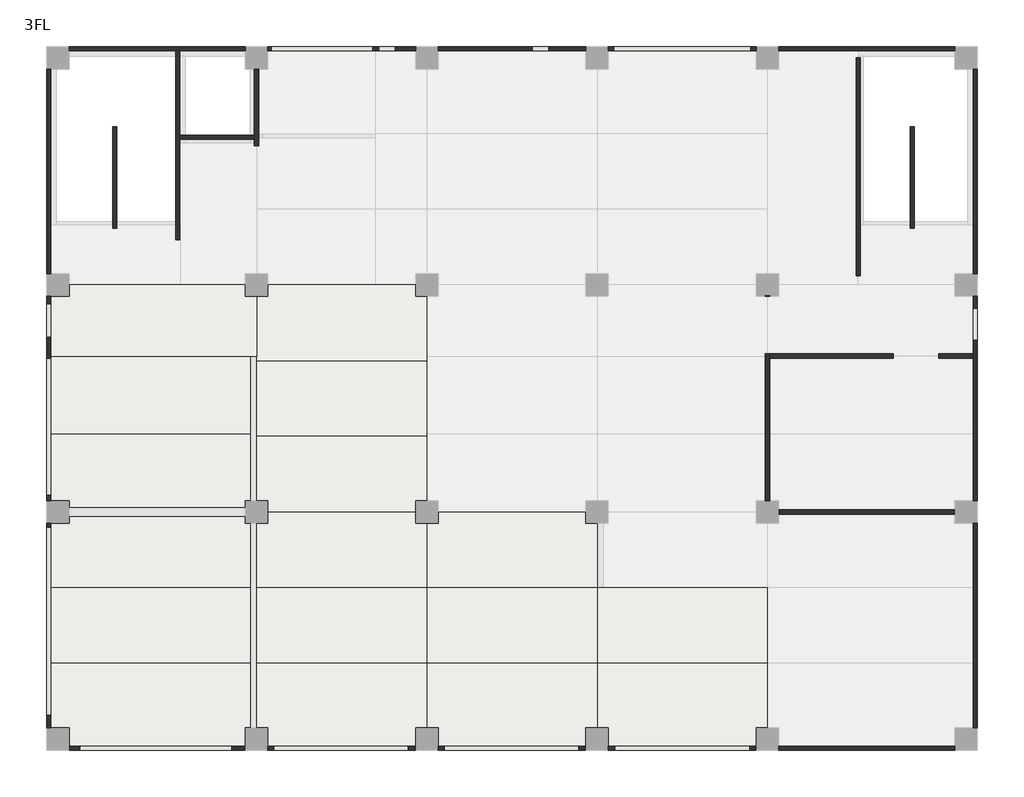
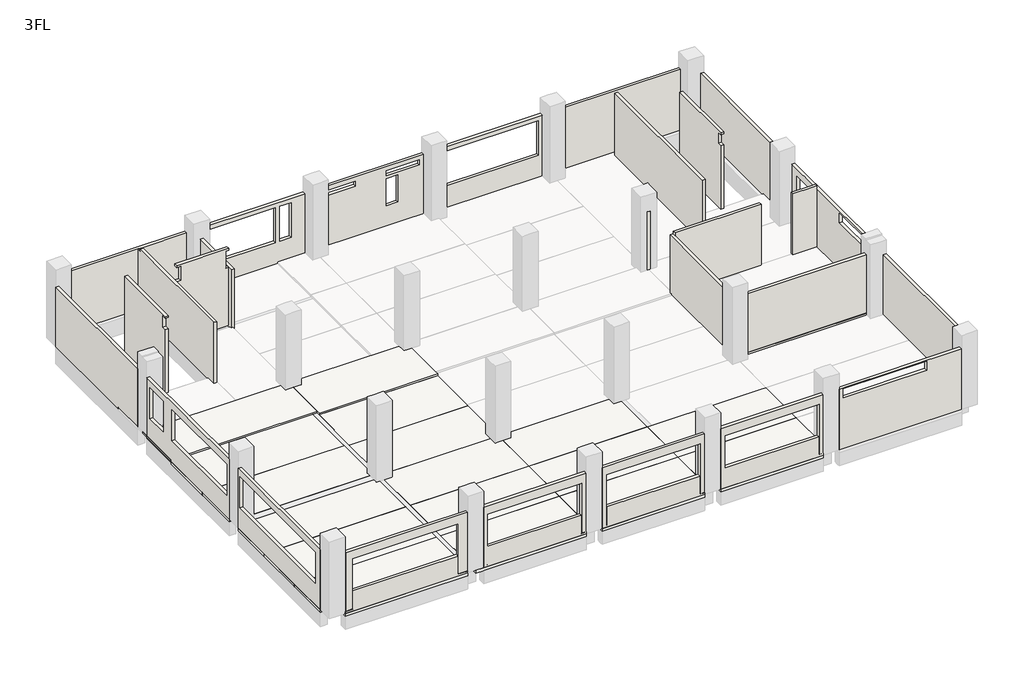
# One storey, part 1 of 4: 23 walls, 17 slabs.
"""IFC4 building model written with IfcOpenShell, lengths in millimetres."""

from ifc_helpers import new_model, si_unit, frame, origin, place, context, project, spatial, polyline, outline, extrude, faceted_brep, element, save

model = new_model("IFC4")

# Units and contexts
model_context = context("Model", 3, world=origin())
ifc_project = project(units=[si_unit("LENGTHUNIT", "METRE", prefix="MILLI")], contexts=[model_context])

# Site, building, storey
site = spatial("IfcSite", under=ifc_project)
building = spatial("IfcBuilding", under=site)
storey = spatial("IfcBuildingStorey", under=building, Name="3FL", Elevation=8200.0)

# Slabs
placement = place(None, origin())
element("IfcSlab", 1, ObjectType="S2", at=placement, inside=storey, context=model_context, shape_type="Brep", body=[
    faceted_brep([(400.0, -400.0, 7950.0), (400.0, -50.0, 7950.0), (400.0, 400.0, 7950.0), (-50.0, 400.0, 7950.0), (-400.0, 400.0, 7950.0), (-400.0, 2664.0, 7950.0), (6775.0, 2664.0, 7950.0), (6775.0, 2485.0, 7950.0), (6775.0, 400.0, 7950.0), (6600.0, 400.0, 7950.0), (6600.0, -50.0, 7950.0), (6600.0, -400.0, 7950.0), (400.0, 400.0, 8100.0), (400.0, -250.0, 8100.0), (400.0, -400.0, 8100.0), (6600.0, -400.0, 8100.0), (6600.0, -250.0, 8100.0), (6600.0, 400.0, 8100.0), (6775.0, 400.0, 8100.0), (6775.0, 2664.0, 8100.0), (-400.0, 2664.0, 8100.0), (-400.0, 400.0, 8100.0), (-250.0, 400.0, 8100.0)], [[[0, 1, 2, 3, 4, 5, 6, 7, 8, 9, 10, 11]], [[12, 13, 14, 15, 16, 17, 18, 19, 20, 21, 22]], [[14, 0, 11, 15]], [[20, 5, 4, 21]], [[5, 20, 19, 6]], [[12, 2, 1, 0, 14, 13]], [[2, 12, 22, 21, 4, 3]], [[9, 17, 16, 15, 11, 10]], [[17, 9, 8, 18]], [[8, 7, 6, 19, 18]]]),
])
element("IfcSlab", 2, ObjectType="S2", at=placement, inside=storey, context=model_context, shape_type="Brep", body=[
    faceted_brep([(-400.0, 2664.0, 7950.0), (-400.0, 5328.0, 7950.0), (6775.0, 5328.0, 7950.0), (6775.0, 5155.0, 7950.0), (6775.0, 2835.0, 7950.0), (6775.0, 2664.0, 7950.0), (-400.0, 5328.0, 8100.0), (-400.0, 2664.0, 8100.0), (6775.0, 2664.0, 8100.0), (6775.0, 5328.0, 8100.0)], [[[0, 1, 2, 3, 4, 5]], [[6, 7, 8, 9]], [[7, 0, 5, 8]], [[1, 0, 7, 6]], [[1, 6, 9, 2]], [[5, 4, 3, 2, 9, 8]]]),
])
element("IfcSlab", 3, ObjectType="S2", at=placement, inside=storey, context=model_context, shape_type="Brep", body=[
    faceted_brep([(-400.0, 7600.0, 7950.0), (-50.0, 7600.0, 7950.0), (400.0, 7600.0, 7950.0), (400.0, 7825.0, 7950.0), (6600.0, 7825.0, 7950.0), (6600.0, 7600.0, 7950.0), (6775.0, 7600.0, 7950.0), (6775.0, 5505.0, 7950.0), (6775.0, 5328.0, 7950.0), (-400.0, 5328.0, 7950.0), (400.0, 7600.0, 8100.0), (-250.0, 7600.0, 8100.0), (-400.0, 7600.0, 8100.0), (-400.0, 5328.0, 8100.0), (6775.0, 5328.0, 8100.0), (6775.0, 7600.0, 8100.0), (6600.0, 7600.0, 8100.0), (6600.0, 7825.0, 8100.0), (400.0, 7825.0, 8100.0)], [[[0, 1, 2, 3, 4, 5, 6, 7, 8, 9]], [[10, 11, 12, 13, 14, 15, 16, 17, 18]], [[13, 9, 8, 14]], [[9, 13, 12, 0]], [[2, 10, 18, 3]], [[10, 2, 1, 0, 12, 11]], [[5, 16, 15, 6]], [[16, 5, 4, 17]], [[4, 3, 18, 17]], [[8, 7, 6, 15, 14]]]),
])
element("IfcSlab", 4, ObjectType="S2", at=placement, inside=storey, context=model_context, shape_type="Brep", body=[
    faceted_brep([(13000.0, 2664.0, 7950.0), (19000.0, 2664.0, 7950.0), (19000.0, 400.0, 7950.0), (18600.0, 400.0, 7950.0), (18600.0, -50.0, 7950.0), (18600.0, -400.0, 7950.0), (13400.0, -400.0, 7950.0), (13400.0, -50.0, 7950.0), (13400.0, 400.0, 7950.0), (13000.0, 400.0, 7950.0), (19000.0, 2664.0, 8100.0), (13000.0, 2664.0, 8100.0), (13000.0, 400.0, 8100.0), (13400.0, 400.0, 8100.0), (13400.0, -250.0, 8100.0), (13400.0, -400.0, 8100.0), (18600.0, -400.0, 8100.0), (18600.0, -250.0, 8100.0), (18600.0, 400.0, 8100.0), (19000.0, 400.0, 8100.0)], [[[0, 1, 2, 3, 4, 5, 6, 7, 8, 9]], [[10, 11, 12, 13, 14, 15, 16, 17, 18, 19]], [[15, 6, 5, 16]], [[11, 0, 9, 12]], [[1, 0, 11, 10]], [[1, 10, 19, 2]], [[13, 8, 7, 6, 15, 14]], [[8, 13, 12, 9]], [[3, 18, 17, 16, 5, 4]], [[18, 3, 2, 19]]]),
])
element("IfcSlab", 5, ObjectType="S2", at=placement, inside=storey, context=model_context, shape_type="Brep", body=[
    faceted_brep([(19000.0, 5328.0, 7950.0), (19000.0, 2664.0, 7950.0), (13000.0, 2664.0, 7950.0), (13000.0, 2667.0, 7950.0), (13000.0, 5328.0, 7950.0), (19000.0, 5328.0, 8100.0), (13000.0, 5328.0, 8100.0), (13000.0, 2667.0, 8100.0), (13000.0, 2664.0, 8100.0), (19000.0, 2664.0, 8100.0)], [[[0, 1, 2, 3, 4]], [[5, 6, 7, 8, 9]], [[1, 0, 5, 9]], [[2, 1, 9, 8]], [[4, 3, 2, 8, 7, 6]], [[0, 4, 6, 5]]]),
])
element("IfcSlab", 6, ObjectType="S2", at=placement, inside=storey, context=model_context, shape_type="Brep", body=[
    faceted_brep([(19000.0, 5328.0, 7950.0), (13000.0, 5328.0, 7950.0), (13000.0, 5333.0, 7950.0), (13000.0, 7600.0, 7950.0), (13225.0, 7600.0, 7950.0), (13400.0, 7600.0, 7950.0), (13400.0, 8000.0, 7950.0), (18600.0, 8000.0, 7950.0), (18600.0, 7825.0, 7950.0), (18600.0, 7600.0, 7950.0), (18775.0, 7600.0, 7950.0), (19000.0, 7600.0, 7950.0), (13000.0, 5328.0, 8100.0), (19000.0, 5328.0, 8100.0), (19000.0, 7600.0, 8100.0), (18600.0, 7600.0, 8100.0), (18600.0, 8000.0, 8100.0), (13400.0, 8000.0, 8100.0), (13400.0, 7600.0, 8100.0), (13000.0, 7600.0, 8100.0), (13000.0, 5333.0, 8100.0)], [[[0, 1, 2, 3, 4, 5, 6, 7, 8, 9, 10, 11]], [[12, 13, 14, 15, 16, 17, 18, 19, 20]], [[13, 0, 11, 14]], [[1, 0, 13, 12]], [[1, 12, 20, 19, 3, 2]], [[6, 17, 16, 7]], [[5, 18, 17, 6]], [[18, 5, 4, 3, 19]], [[9, 15, 14, 11, 10]], [[15, 9, 8, 7, 16]]]),
])
element("IfcSlab", 7, ObjectType="S2", at=placement, inside=storey, context=model_context, shape_type="Brep", body=[
    faceted_brep([(19000.0, 2664.0, 7950.0), (25000.0, 2664.0, 7950.0), (25000.0, 400.0, 7950.0), (24600.0, 400.0, 7950.0), (24600.0, -50.0, 7950.0), (24600.0, -400.0, 7950.0), (19400.0, -400.0, 7950.0), (19400.0, -50.0, 7950.0), (19400.0, 400.0, 7950.0), (19000.0, 400.0, 7950.0), (25000.0, 2664.0, 8100.0), (19000.0, 2664.0, 8100.0), (19000.0, 400.0, 8100.0), (19400.0, 400.0, 8100.0), (19400.0, -250.0, 8100.0), (19400.0, -400.0, 8100.0), (24600.0, -400.0, 8100.0), (24600.0, -250.0, 8100.0), (24600.0, 400.0, 8100.0), (25000.0, 400.0, 8100.0)], [[[0, 1, 2, 3, 4, 5, 6, 7, 8, 9]], [[10, 11, 12, 13, 14, 15, 16, 17, 18, 19]], [[15, 6, 5, 16]], [[11, 0, 9, 12]], [[1, 0, 11, 10]], [[1, 10, 19, 2]], [[13, 8, 7, 6, 15, 14]], [[8, 13, 12, 9]], [[3, 18, 17, 16, 5, 4]], [[18, 3, 2, 19]]]),
])
element("IfcSlab", 8, ObjectType="S2", at=placement, inside=storey, context=model_context, shape_type="Brep", body=[
    faceted_brep([(25000.0, 5328.0, 7950.0), (25000.0, 2664.0, 7950.0), (19000.0, 2664.0, 7950.0), (19000.0, 5328.0, 7950.0), (19225.0, 5328.0, 7950.0), (25000.0, 5328.0, 8100.0), (19225.0, 5328.0, 8100.0), (19000.0, 5328.0, 8100.0), (19000.0, 2664.0, 8100.0), (25000.0, 2664.0, 8100.0)], [[[0, 1, 2, 3, 4]], [[5, 6, 7, 8, 9]], [[1, 0, 5, 9]], [[2, 1, 9, 8]], [[3, 2, 8, 7]], [[0, 4, 3, 7, 6, 5]]]),
])
element("IfcSlab", 9, ObjectType="S2", at=placement, inside=storey, context=model_context, shape_type="Brep", body=[
    faceted_brep([(7000.0, 13496.0, 8040.0), (6775.0, 13496.0, 8040.0), (-50.0, 13496.0, 8040.0), (-400.0, 13496.0, 8040.0), (-400.0, 15600.0, 8040.0), (-50.0, 15600.0, 8040.0), (400.0, 15600.0, 8040.0), (400.0, 16000.0, 8040.0), (4319.0, 16000.0, 8040.0), (6600.0, 16000.0, 8040.0), (6600.0, 15825.0, 8040.0), (6600.0, 15600.0, 8040.0), (6775.0, 15600.0, 8040.0), (7000.0, 15600.0, 8040.0), (7000.0, 13675.0, 8040.0), (-400.0, 13496.0, 8190.0), (7000.0, 13496.0, 8190.0), (7000.0, 15600.0, 8190.0), (6600.0, 15600.0, 8190.0), (6600.0, 16000.0, 8190.0), (4319.0, 16000.0, 8190.0), (-400.0, 16000.0, 8190.0), (-400.0, 15600.0, 8190.0), (7000.0, 13496.0, 8100.0), (-400.0, 13496.0, 8100.0), (-400.0, 16000.0, 8100.0), (-400.0, 15600.0, 8100.0), (400.0, 16000.0, 8100.0), (400.0, 15600.0, 8100.0), (-250.0, 15600.0, 8100.0), (6600.0, 15600.0, 8100.0)], [[[0, 1, 2, 3, 4, 5, 6, 7, 8, 9, 10, 11, 12, 13, 14]], [[15, 16, 17, 18, 19, 20, 21, 22]], [[16, 23, 0, 14, 13, 17]], [[3, 2, 1, 0, 23, 16, 15, 24]], [[15, 22, 21, 25, 26, 4, 3, 24]], [[7, 27, 25, 21, 20, 19, 9, 8]], [[6, 28, 27, 7]], [[26, 29, 28, 6, 5, 4]], [[28, 29, 26, 25, 27]], [[18, 17, 13, 12, 11, 30]], [[18, 30, 11, 10, 9, 19]]]),
])
element("IfcSlab", 10, ObjectType="S2", at=placement, inside=storey, context=model_context, shape_type="Brep", body=[
    faceted_brep([(7400.0, 15600.0, 8040.0), (7400.0, 16000.0, 8040.0), (11200.0, 16000.0, 8040.0), (12600.0, 16000.0, 8040.0), (12600.0, 15825.0, 8040.0), (12600.0, 15600.0, 8040.0), (12775.0, 15600.0, 8040.0), (13000.0, 15600.0, 8040.0), (13000.0, 13675.0, 8040.0), (7000.0, 13675.0, 8040.0), (7000.0, 15600.0, 8040.0), (7225.0, 15600.0, 8040.0), (7000.0, 13328.0, 8190.0), (13000.0, 13328.0, 8190.0), (13000.0, 13496.0, 8190.0), (13000.0, 15600.0, 8190.0), (12600.0, 15600.0, 8190.0), (12600.0, 16000.0, 8190.0), (11200.0, 16000.0, 8190.0), (7400.0, 16000.0, 8190.0), (7400.0, 15600.0, 8190.0), (7000.0, 15600.0, 8190.0), (7000.0, 13496.0, 8190.0), (13000.0, 13328.0, 8100.0), (13000.0, 13496.0, 8100.0), (13000.0, 13675.0, 8100.0), (7000.0, 13328.0, 8100.0), (7225.0, 13328.0, 8100.0), (12775.0, 13328.0, 8100.0), (7000.0, 13675.0, 8100.0), (7400.0, 16000.0, 8100.0), (7400.0, 15600.0, 8100.0), (12600.0, 15600.0, 8100.0), (12775.0, 13675.0, 8100.0), (7225.0, 13675.0, 8100.0)], [[[0, 1, 2, 3, 4, 5, 6, 7, 8, 9, 10, 11]], [[12, 13, 14, 15, 16, 17, 18, 19, 20, 21, 22]], [[15, 14, 13, 23, 24, 25, 8, 7]], [[13, 12, 26, 27, 28, 23]], [[12, 22, 21, 10, 9, 29, 26]], [[1, 30, 19, 18, 17, 3, 2]], [[1, 0, 31, 20, 19, 30]], [[0, 11, 10, 21, 20, 31]], [[7, 6, 5, 32, 16, 15]], [[5, 4, 3, 17, 16, 32]], [[25, 33, 34, 29, 9, 8]], [[29, 34, 33, 25, 24, 23, 28, 27, 26]]]),
])
element("IfcSlab", 11, ObjectType="S2", at=placement, inside=storey, context=model_context, shape_type="Brep", body=[
    faceted_brep([(7000.0, -400.0, 7950.0), (7000.0, 0.0, 7950.0), (7000.0, 400.0, 7950.0), (7000.0, 2667.0, 7950.0), (13000.0, 2667.0, 7950.0), (13000.0, 2664.0, 7950.0), (13000.0, 400.0, 7950.0), (12600.0, 400.0, 7950.0), (12600.0, -50.0, 7950.0), (12600.0, -400.0, 7950.0), (7400.0, -400.0, 7950.0), (7000.0, 2667.0, 8100.0), (7000.0, 400.0, 8100.0), (7000.0, 0.0, 8100.0), (7000.0, -400.0, 8100.0), (7400.0, -400.0, 8100.0), (12600.0, -400.0, 8100.0), (12600.0, 400.0, 8100.0), (13000.0, 400.0, 8100.0), (13000.0, 2664.0, 8100.0), (13000.0, 2667.0, 8100.0)], [[[0, 1, 2, 3, 4, 5, 6, 7, 8, 9, 10]], [[11, 12, 13, 14, 15, 16, 17, 18, 19, 20]], [[14, 0, 10, 9, 16, 15]], [[3, 2, 1, 0, 14, 13, 12, 11]], [[4, 3, 11, 20]], [[4, 20, 19, 18, 6, 5]], [[7, 17, 16, 9, 8]], [[17, 7, 6, 18]]]),
])
element("IfcSlab", 12, ObjectType="S2", at=placement, inside=storey, context=model_context, shape_type="Brep", body=[
    faceted_brep([(13000.0, 5333.0, 7950.0), (13000.0, 5328.0, 7950.0), (13000.0, 2667.0, 7950.0), (7000.0, 2667.0, 7950.0), (7000.0, 5333.0, 7950.0), (13000.0, 5333.0, 8100.0), (7000.0, 5333.0, 8100.0), (7000.0, 2667.0, 8100.0), (13000.0, 2667.0, 8100.0), (13000.0, 5328.0, 8100.0)], [[[0, 1, 2, 3, 4]], [[5, 6, 7, 8, 9]], [[2, 1, 0, 5, 9, 8]], [[3, 2, 8, 7]], [[4, 3, 7, 6]], [[0, 4, 6, 5]]]),
])
element("IfcSlab", 13, ObjectType="S2", at=placement, inside=storey, context=model_context, shape_type="Brep", body=[
    faceted_brep([(13000.0, 5333.0, 7950.0), (7000.0, 5333.0, 7950.0), (7000.0, 7600.0, 7950.0), (7000.0, 8000.0, 7950.0), (12600.0, 8000.0, 7950.0), (12600.0, 7825.0, 7950.0), (12600.0, 7600.0, 7950.0), (12775.0, 7600.0, 7950.0), (13000.0, 7600.0, 7950.0), (7000.0, 5333.0, 8100.0), (13000.0, 5333.0, 8100.0), (13000.0, 7600.0, 8100.0), (12600.0, 7600.0, 8100.0), (12600.0, 8000.0, 8100.0), (7000.0, 8000.0, 8100.0), (7000.0, 7600.0, 8100.0)], [[[0, 1, 2, 3, 4, 5, 6, 7, 8]], [[9, 10, 11, 12, 13, 14, 15]], [[10, 0, 8, 11]], [[1, 0, 10, 9]], [[3, 2, 1, 9, 15, 14]], [[3, 14, 13, 4]], [[6, 12, 11, 8, 7]], [[12, 6, 5, 4, 13]]]),
])
element("IfcSlab", 14, ObjectType="S2", at=placement, inside=storey, context=model_context, shape_type="Brep", body=[
    faceted_brep([(400.0, 8400.0, 7950.0), (-50.0, 8400.0, 7950.0), (-400.0, 8400.0, 7950.0), (-400.0, 10748.0, 7950.0), (6775.0, 10748.0, 7950.0), (6775.0, 10575.0, 7950.0), (6775.0, 8400.0, 7950.0), (6600.0, 8400.0, 7950.0), (6600.0, 8175.0, 7950.0), (400.0, 8175.0, 7950.0), (-400.0, 8400.0, 8100.0), (-250.0, 8400.0, 8100.0), (400.0, 8400.0, 8100.0), (400.0, 8175.0, 8100.0), (6600.0, 8175.0, 8100.0), (6600.0, 8400.0, 8100.0), (6775.0, 8400.0, 8100.0), (6775.0, 10748.0, 8100.0), (-400.0, 10748.0, 8100.0)], [[[0, 1, 2, 3, 4, 5, 6, 7, 8, 9]], [[10, 11, 12, 13, 14, 15, 16, 17, 18]], [[18, 3, 2, 10]], [[3, 18, 17, 4]], [[12, 0, 9, 13]], [[0, 12, 11, 10, 2, 1]], [[7, 15, 14, 8]], [[15, 7, 6, 16]], [[9, 8, 14, 13]], [[6, 5, 4, 17, 16]]]),
])
element("IfcSlab", 15, ObjectType="S2", at=placement, inside=storey, context=model_context, shape_type="Brep", body=[
    faceted_brep([(-400.0, 10748.0, 7950.0), (-400.0, 13496.0, 7950.0), (-50.0, 13496.0, 7950.0), (6775.0, 13496.0, 7950.0), (6775.0, 13325.0, 7950.0), (6775.0, 10925.0, 7950.0), (6775.0, 10748.0, 7950.0), (-400.0, 13496.0, 8100.0), (-400.0, 10748.0, 8100.0), (6775.0, 10748.0, 8100.0), (6775.0, 13496.0, 8100.0), (-400.0, 13496.0, 8040.0), (6775.0, 13496.0, 8040.0)], [[[0, 1, 2, 3, 4, 5, 6]], [[7, 8, 9, 10]], [[8, 0, 6, 9]], [[1, 0, 8, 7, 11]], [[1, 11, 7, 10, 12, 3, 2]], [[6, 5, 4, 3, 12, 10, 9]]]),
])
element("IfcSlab", 16, ObjectType="S2", at=placement, inside=storey, context=model_context, shape_type="Brep", body=[
    faceted_brep([(7000.0, 8000.0, 7950.0), (7000.0, 8175.0, 7950.0), (7000.0, 8400.0, 7950.0), (7000.0, 10664.0, 7950.0), (13000.0, 10664.0, 7950.0), (13000.0, 8400.0, 7950.0), (12600.0, 8400.0, 7950.0), (12600.0, 8175.0, 7950.0), (12600.0, 8000.0, 7950.0), (7225.0, 8000.0, 7950.0), (7000.0, 10664.0, 8100.0), (7000.0, 8400.0, 8100.0), (7000.0, 8175.0, 8100.0), (7000.0, 8000.0, 8100.0), (12600.0, 8000.0, 8100.0), (12600.0, 8400.0, 8100.0), (13000.0, 8400.0, 8100.0), (13000.0, 10664.0, 8100.0)], [[[0, 1, 2, 3, 4, 5, 6, 7, 8, 9]], [[10, 11, 12, 13, 14, 15, 16, 17]], [[13, 0, 9, 8, 14]], [[3, 2, 1, 0, 13, 12, 11, 10]], [[4, 3, 10, 17]], [[4, 17, 16, 5]], [[6, 15, 14, 8, 7]], [[15, 6, 5, 16]]]),
])
element("IfcSlab", 17, ObjectType="S2", at=placement, inside=storey, context=model_context, shape_type="Brep", body=[
    faceted_brep([(13000.0, 13328.0, 7950.0), (13000.0, 10748.0, 7950.0), (13000.0, 10664.0, 7950.0), (7000.0, 10664.0, 7950.0), (7000.0, 13328.0, 7950.0), (7225.0, 13328.0, 7950.0), (12775.0, 13328.0, 7950.0), (13000.0, 13328.0, 8100.0), (12775.0, 13328.0, 8100.0), (7225.0, 13328.0, 8100.0), (7000.0, 13328.0, 8100.0), (7000.0, 10664.0, 8100.0), (13000.0, 10664.0, 8100.0), (13000.0, 10748.0, 8100.0), (13000.0, 13328.0, 8040.0), (7000.0, 13328.0, 8040.0)], [[[0, 1, 2, 3, 4, 5, 6]], [[7, 8, 9, 10, 11, 12, 13]], [[2, 1, 0, 14, 7, 13, 12]], [[3, 2, 12, 11]], [[4, 3, 11, 10, 15]], [[0, 6, 5, 4, 15, 10, 9, 8, 7, 14]]]),
])

# Walls
element("IfcWall", 18, ObjectType="EW15", at=placement, inside=storey, context=model_context, shape_type="Brep", body=[
    faceted_brep([(400.0, 24400.0, 8100.0), (400.0, 24400.0, 11350.0), (6600.0, 24400.0, 11350.0), (6600.0, 24400.0, 8100.0), (400.0, 24250.0, 11350.0), (400.0, 24250.0, 8100.0), (4144.0, 24250.0, 8100.0), (4294.0, 24250.0, 8100.0), (6600.0, 24250.0, 8100.0), (6600.0, 24250.0, 11350.0), (4294.0, 24250.0, 11350.0), (4144.0, 24250.0, 11350.0)], [[[0, 1, 2, 3]], [[4, 5, 6, 7, 8, 9, 10, 11]], [[5, 0, 3, 8, 7, 6]], [[1, 4, 11, 10, 9, 2]], [[1, 0, 5, 4]], [[3, 2, 9, 8]]]),
])
element("IfcWall", 19, ObjectType="EW15", at=placement, inside=storey, context=model_context, shape_type="Brep", body=[
    faceted_brep([(31600.0, 24400.0, 11350.0), (31600.0, 24400.0, 8100.0), (28199.0, 24400.0, 8100.0), (25400.0, 24400.0, 8100.0), (25400.0, 24400.0, 11350.0), (31600.0, 24250.0, 8100.0), (31600.0, 24250.0, 11350.0), (25400.0, 24250.0, 11350.0), (25400.0, 24250.0, 8100.0)], [[[0, 1, 2, 3, 4]], [[5, 6, 7, 8]], [[1, 5, 8, 3, 2]], [[6, 0, 4, 7]], [[6, 5, 1, 0]], [[4, 3, 8, 7]]]),
])
element("IfcWall", 20, ObjectType="EW15", at=placement, inside=storey, context=model_context, shape_type="SweptSolid", body=[
    extrude(outline(polyline([(18100.0, 8100.0), (18100.0, 8190.0), (16400.0, 8190.0), (16400.0, 11300.0), (23600.0, 11300.0), (23600.0, 8100.0), (18100.0, 8100.0)])), frame((-400.0, 0.0, 0.0), z_axis=(1.0, 0.0, 0.0), x_axis=(0.0, 1.0, 0.0)), (0.0, 0.0, 1.0), 150.0),
])
element("IfcWall", 21, ObjectType="EW15", at=placement, inside=storey, context=model_context, shape_type="Brep", body=[
    faceted_brep([(32250.0, 7600.0, 8100.0), (32250.0, 400.0, 8100.0), (32250.0, 400.0, 11300.0), (32250.0, 7600.0, 11300.0), (32400.0, 7600.0, 8100.0), (32400.0, 7600.0, 11300.0), (32400.0, 400.0, 11300.0), (32400.0, 400.0, 8100.0), (32400.0, 2664.0, 8100.0), (32400.0, 5328.0, 8100.0)], [[[0, 1, 2, 3]], [[4, 5, 6, 7, 8, 9]], [[1, 0, 4, 9, 8, 7]], [[2, 1, 7, 6]], [[3, 2, 6, 5]], [[0, 3, 5, 4]]]),
])
element("IfcWall", 22, ObjectType="EW15", at=placement, inside=storey, context=model_context, shape_type="Brep", body=[
    faceted_brep([(32250.0, 8400.0, 11300.0), (32250.0, 13425.0, 11300.0), (32250.0, 13575.0, 11300.0), (32250.0, 15600.0, 11300.0), (32250.0, 15600.0, 8190.0), (32250.0, 13575.0, 8190.0), (32250.0, 13425.0, 8190.0), (32250.0, 8400.0, 8190.0), (32250.0, 15177.5, 10895.0), (32250.0, 14057.5, 10895.0), (32250.0, 14057.5, 9175.0), (32250.0, 15177.5, 9175.0), (32250.0, 11440.0, 11200.0), (32250.0, 8920.0, 11200.0), (32250.0, 8920.0, 10675.0), (32250.0, 11440.0, 10675.0), (32400.0, 15600.0, 11300.0), (32400.0, 8400.0, 11300.0), (32400.0, 8400.0, 8190.0), (32400.0, 10748.0, 8190.0), (32400.0, 13496.0, 8190.0), (32400.0, 15600.0, 8190.0), (32400.0, 14057.5, 10895.0), (32400.0, 15177.5, 10895.0), (32400.0, 15177.5, 9175.0), (32400.0, 14057.5, 9175.0), (32400.0, 8920.0, 11200.0), (32400.0, 11440.0, 11200.0), (32400.0, 11440.0, 10675.0), (32400.0, 8920.0, 10675.0)], [[[0, 1, 2, 3, 4, 5, 6, 7], [8, 9, 10, 11], [12, 13, 14, 15]], [[16, 17, 18, 19, 20, 21], [22, 23, 24, 25], [26, 27, 28, 29]], [[17, 0, 7, 18]], [[3, 2, 1, 0, 17, 16]], [[3, 16, 21, 4]], [[4, 21, 20, 19, 18, 7, 6, 5]], [[8, 23, 22, 9]], [[10, 25, 24, 11]], [[23, 8, 11, 24]], [[9, 22, 25, 10]], [[12, 27, 26, 13]], [[14, 29, 28, 15]], [[27, 12, 15, 28]], [[13, 26, 29, 14]]]),
])
element("IfcWall", 23, ObjectType="EW15", at=placement, inside=storey, context=model_context, shape_type="SweptSolid", body=[
    extrude(outline(polyline([(16400.0, 11300.0), (23600.0, 11300.0), (23600.0, 8100.0), (18100.0, 8100.0), (18100.0, 8190.0), (16400.0, 8190.0), (16400.0, 11300.0)])), frame((32250.0, 0.0, 0.0), z_axis=(1.0, 0.0, 0.0), x_axis=(0.0, 1.0, 0.0)), (0.0, 0.0, 1.0), 150.0),
])
element("IfcWall", 24, ObjectType="W15", at=placement, inside=storey, context=model_context, shape_type="SweptSolid", body=[
    extrude(outline(polyline([(8200.0, 400.0), (8100.0, 400.0), (8100.0, 6600.0), (8200.0, 6600.0), (8200.0, 6102.5), (9175.0, 6102.5), (9175.0, 787.5), (8200.0, 787.5), (8200.0, 400.0)])), frame((0.0, -400.0, 0.0), z_axis=(0.0, 1.0, 0.0), x_axis=(0.0, 0.0, 1.0)), (0.0, 0.0, 1.0), 150.0),
    extrude(outline(polyline([(8225.0, 6575.0), (11350.0, 6575.0), (11350.0, 425.0), (8225.0, 425.0), (8225.0, 762.5), (10895.0, 762.5), (10895.0, 6127.5), (8225.0, 6127.5), (8225.0, 6575.0)])), frame((0.0, -400.0, 0.0), z_axis=(0.0, 1.0, 0.0), x_axis=(0.0, 0.0, 1.0)), (0.0, 0.0, 1.0), 150.0),
])
element("IfcWall", 25, ObjectType="W15", at=placement, inside=storey, context=model_context, shape_type="SweptSolid", body=[
    extrude(outline(polyline([(8100.0, 7400.0), (8100.0, 12600.0), (8200.0, 12600.0), (8200.0, 12335.0), (9175.0, 12335.0), (9175.0, 7625.0), (8200.0, 7625.0), (8200.0, 7600.0), (10895.0, 7600.0), (10895.0, 12360.0), (8225.0, 12360.0), (8225.0, 12575.0), (11350.0, 12575.0), (11350.0, 7400.0), (8100.0, 7400.0)])), frame((0.0, -400.0, 0.0), z_axis=(0.0, 1.0, 0.0), x_axis=(0.0, 0.0, 1.0)), (0.0, 0.0, 1.0), 150.0),
])
element("IfcWall", 26, ObjectType="W15", at=placement, inside=storey, context=model_context, shape_type="SweptSolid", body=[
    extrude(outline(polyline([(8100.0, 13400.0), (8100.0, 18600.0), (8200.0, 18600.0), (8200.0, 18335.0), (9175.0, 18335.0), (9175.0, 13625.0), (8200.0, 13625.0), (8200.0, 13600.0), (10895.0, 13600.0), (10895.0, 18360.0), (8225.0, 18360.0), (8225.0, 18575.0), (11350.0, 18575.0), (11350.0, 13400.0), (8100.0, 13400.0)])), frame((0.0, -400.0, 0.0), z_axis=(0.0, 1.0, 0.0), x_axis=(0.0, 0.0, 1.0)), (0.0, 0.0, 1.0), 150.0),
])
element("IfcWall", 27, ObjectType="W15", at=placement, inside=storey, context=model_context, shape_type="SweptSolid", body=[
    extrude(outline(polyline([(8100.0, 19400.0), (8100.0, 24600.0), (8200.0, 24600.0), (8200.0, 24355.0), (9175.0, 24355.0), (9175.0, 19645.0), (8200.0, 19645.0), (8200.0, 19620.0), (10895.0, 19620.0), (10895.0, 24380.0), (8225.0, 24380.0), (8225.0, 24575.0), (11350.0, 24575.0), (11350.0, 19400.0), (8100.0, 19400.0)])), frame((0.0, -400.0, 0.0), z_axis=(0.0, 1.0, 0.0), x_axis=(0.0, 0.0, 1.0)), (0.0, 0.0, 1.0), 150.0),
])
element("IfcWall", 28, ObjectType="W15", at=placement, inside=storey, context=model_context, shape_type="SweptSolid", body=[
    extrude(outline(polyline([(8100.0, 25400.0), (8100.0, 31600.0), (11350.0, 31600.0), (11350.0, 25400.0), (8100.0, 25400.0)]), holes=[polyline([(11310.0, 25602.7), (11310.0, 29822.7), (10825.0, 29822.7), (10825.0, 25602.7), (11310.0, 25602.7)])]), frame((0.0, -400.0, 0.0), z_axis=(0.0, 1.0, 0.0), x_axis=(0.0, 0.0, 1.0)), (0.0, 0.0, 1.0), 150.0),
])
element("IfcWall", 29, ObjectType="W15", at=placement, inside=storey, context=model_context, shape_type="SweptSolid", body=[
    extrude(outline(polyline([(25425.0, 8075.0), (31575.0, 8075.0), (31575.0, 7925.0), (25425.0, 7925.0), (25425.0, 8075.0)])), frame((0.0, 0.0, 8225.0), z_axis=(0.0, 0.0, 1.0), x_axis=(1.0, 0.0, 0.0)), (0.0, 0.0, 1.0), 3125.0),
    extrude(outline(polyline([(25400.0, 7925.0), (25400.0, 8075.0), (31600.0, 8075.0), (31600.0, 7925.0), (25400.0, 7925.0)])), frame((0.0, 0.0, 8100.0), z_axis=(0.0, 0.0, 1.0), x_axis=(1.0, 0.0, 0.0)), (0.0, 0.0, 1.0), 100.0),
])
element("IfcWall", 30, ObjectType="W15", at=placement, inside=storey, context=model_context, shape_type="Brep", body=[
    faceted_brep([(24600.0, 24400.0, 11350.0), (24600.0, 24400.0, 8100.0), (19400.0, 24400.0, 8100.0), (19400.0, 24400.0, 11350.0), (24410.0, 24400.0, 11120.0), (19590.0, 24400.0, 11120.0), (19590.0, 24400.0, 9265.0), (24410.0, 24400.0, 9265.0), (24600.0, 24250.0, 8100.0), (24600.0, 24250.0, 11350.0), (19400.0, 24250.0, 11350.0), (19400.0, 24250.0, 8100.0), (19590.0, 24250.0, 11120.0), (24410.0, 24250.0, 11120.0), (24410.0, 24250.0, 9265.0), (19590.0, 24250.0, 9265.0)], [[[0, 1, 2, 3], [4, 5, 6, 7]], [[8, 9, 10, 11], [12, 13, 14, 15]], [[1, 8, 11, 2]], [[9, 0, 3, 10]], [[9, 8, 1, 0]], [[11, 10, 3, 2]], [[4, 13, 12, 5]], [[6, 15, 14, 7]], [[13, 4, 7, 14]], [[5, 12, 15, 6]]]),
    faceted_brep([(18600.0, 24400.0, 11350.0), (18600.0, 24400.0, 8190.0), (18600.0, 24400.0, 8100.0), (13400.0, 24400.0, 8100.0), (13400.0, 24400.0, 8190.0), (13400.0, 24400.0, 11350.0), (15140.0, 24400.0, 11135.0), (13460.0, 24400.0, 11135.0), (13460.0, 24400.0, 10865.0), (15140.0, 24400.0, 10865.0), (17290.0, 24400.0, 10720.0), (16710.0, 24400.0, 10720.0), (16710.0, 24400.0, 9265.0), (17290.0, 24400.0, 9265.0), (18380.0, 24400.0, 11135.0), (16700.0, 24400.0, 11135.0), (16700.0, 24400.0, 10865.0), (18380.0, 24400.0, 10865.0), (18600.0, 24250.0, 8100.0), (18600.0, 24250.0, 11350.0), (13400.0, 24250.0, 11350.0), (13400.0, 24250.0, 8100.0), (13460.0, 24250.0, 11135.0), (15140.0, 24250.0, 11135.0), (15140.0, 24250.0, 10865.0), (13460.0, 24250.0, 10865.0), (16710.0, 24250.0, 10720.0), (17290.0, 24250.0, 10720.0), (17290.0, 24250.0, 9265.0), (16710.0, 24250.0, 9265.0), (16700.0, 24250.0, 11135.0), (18380.0, 24250.0, 11135.0), (18380.0, 24250.0, 10865.0), (16700.0, 24250.0, 10865.0)], [[[0, 1, 2, 3, 4, 5], [6, 7, 8, 9], [10, 11, 12, 13], [14, 15, 16, 17]], [[18, 19, 20, 21], [22, 23, 24, 25], [26, 27, 28, 29], [30, 31, 32, 33]], [[2, 18, 21, 3]], [[19, 0, 5, 20]], [[2, 1, 0, 19, 18]], [[5, 4, 3, 21, 20]], [[6, 23, 22, 7]], [[8, 25, 24, 9]], [[23, 6, 9, 24]], [[7, 22, 25, 8]], [[10, 27, 26, 11]], [[12, 29, 28, 13]], [[27, 10, 13, 28]], [[11, 26, 29, 12]], [[14, 31, 30, 15]], [[16, 33, 32, 17]], [[31, 14, 17, 32]], [[15, 30, 33, 16]]]),
    faceted_brep([(7400.0, 24400.0, 8100.0), (7400.0, 24400.0, 11350.0), (12600.0, 24400.0, 11350.0), (12600.0, 24400.0, 8190.0), (12600.0, 24400.0, 8100.0), (11200.0, 24400.0, 8100.0), (11090.0, 24400.0, 11120.0), (7510.0, 24400.0, 11120.0), (7510.0, 24400.0, 9265.0), (11090.0, 24400.0, 9265.0), (11890.0, 24400.0, 11120.0), (11310.0, 24400.0, 11120.0), (11310.0, 24400.0, 9265.0), (11890.0, 24400.0, 9265.0), (7400.0, 24250.0, 11350.0), (7400.0, 24250.0, 8100.0), (12600.0, 24250.0, 8100.0), (12600.0, 24250.0, 11350.0), (7510.0, 24250.0, 11120.0), (11090.0, 24250.0, 11120.0), (11090.0, 24250.0, 9265.0), (7510.0, 24250.0, 9265.0), (11310.0, 24250.0, 11120.0), (11890.0, 24250.0, 11120.0), (11890.0, 24250.0, 9265.0), (11310.0, 24250.0, 9265.0)], [[[0, 1, 2, 3, 4, 5], [6, 7, 8, 9], [10, 11, 12, 13]], [[14, 15, 16, 17], [18, 19, 20, 21], [22, 23, 24, 25]], [[15, 0, 5, 4, 16]], [[1, 14, 17, 2]], [[1, 0, 15, 14]], [[4, 3, 2, 17, 16]], [[6, 19, 18, 7]], [[8, 21, 20, 9]], [[19, 6, 9, 20]], [[7, 18, 21, 8]], [[10, 23, 22, 11]], [[12, 25, 24, 13]], [[23, 10, 13, 24]], [[11, 22, 25, 12]]]),
])
element("IfcWall", 31, ObjectType="W15", at=placement, inside=storey, context=model_context, shape_type="Brep", body=[
    faceted_brep([(-400.0, 8400.0, 8100.0), (-400.0, 8400.0, 11300.0), (-400.0, 15600.0, 11300.0), (-400.0, 15600.0, 8190.0), (-400.0, 15600.0, 8100.0), (-400.0, 13496.0, 8100.0), (-400.0, 10748.0, 8100.0), (-400.0, 13410.0, 10920.0), (-400.0, 8590.0, 10920.0), (-400.0, 8590.0, 9265.0), (-400.0, 13410.0, 9265.0), (-400.0, 15345.0, 10920.0), (-400.0, 14165.0, 10920.0), (-400.0, 14165.0, 9265.0), (-400.0, 15345.0, 9265.0), (-250.0, 8400.0, 11300.0), (-250.0, 8400.0, 8100.0), (-250.0, 15600.0, 8100.0), (-250.0, 15600.0, 11300.0), (-250.0, 8590.0, 10920.0), (-250.0, 13410.0, 10920.0), (-250.0, 13410.0, 9265.0), (-250.0, 8590.0, 9265.0), (-250.0, 14165.0, 10920.0), (-250.0, 15345.0, 10920.0), (-250.0, 15345.0, 9265.0), (-250.0, 14165.0, 9265.0)], [[[0, 1, 2, 3, 4, 5, 6], [7, 8, 9, 10], [11, 12, 13, 14]], [[15, 16, 17, 18], [19, 20, 21, 22], [23, 24, 25, 26]], [[16, 0, 6, 5, 4, 17]], [[1, 15, 18, 2]], [[16, 15, 1, 0]], [[4, 3, 2, 18, 17]], [[7, 20, 19, 8]], [[9, 22, 21, 10]], [[20, 7, 10, 21]], [[8, 19, 22, 9]], [[11, 24, 23, 12]], [[13, 26, 25, 14]], [[24, 11, 14, 25]], [[12, 23, 26, 13]]]),
    faceted_brep([(-400.0, 7600.0, 11300.0), (-400.0, 7600.0, 8100.0), (-400.0, 5328.0, 8100.0), (-400.0, 2664.0, 8100.0), (-400.0, 400.0, 8100.0), (-400.0, 400.0, 11300.0), (-400.0, 7465.0, 10920.0), (-400.0, 835.0, 10920.0), (-400.0, 835.0, 9265.0), (-400.0, 7465.0, 9265.0), (-250.0, 7600.0, 8100.0), (-250.0, 7600.0, 11300.0), (-250.0, 400.0, 11300.0), (-250.0, 400.0, 8100.0), (-250.0, 835.0, 10920.0), (-250.0, 7465.0, 10920.0), (-250.0, 7465.0, 9265.0), (-250.0, 835.0, 9265.0)], [[[0, 1, 2, 3, 4, 5], [6, 7, 8, 9]], [[10, 11, 12, 13], [14, 15, 16, 17]], [[1, 10, 13, 4, 3, 2]], [[11, 0, 5, 12]], [[6, 15, 14, 7]], [[8, 17, 16, 9]], [[15, 6, 9, 16]], [[7, 14, 17, 8]], [[11, 10, 1, 0]], [[13, 12, 5, 4]]]),
])
element("IfcWall", 32, ObjectType="W15", at=placement, inside=storey, context=model_context, shape_type="Brep", body=[
    faceted_brep([(6925.0, 20905.0, 8100.0), (6925.0, 20905.0, 11300.0), (6925.0, 21125.0, 11300.0), (6925.0, 21275.0, 11300.0), (6925.0, 23600.0, 11300.0), (6925.0, 23600.0, 8100.0), (6925.0, 21275.0, 8100.0), (6925.0, 21125.0, 8100.0), (7075.0, 20905.0, 11300.0), (7075.0, 20905.0, 8100.0), (7075.0, 23600.0, 8100.0), (7075.0, 23600.0, 11300.0), (7000.0, 23600.0, 8100.0)], [[[0, 1, 2, 3, 4, 5, 6, 7]], [[8, 9, 10, 11]], [[9, 0, 7, 6, 5, 12, 10]], [[1, 0, 9, 8]], [[10, 12, 5, 4, 11]], [[4, 3, 2, 1, 8, 11]]]),
])
element("IfcWall", 33, ObjectType="W15", at=placement, inside=storey, context=model_context, shape_type="Brep", body=[
    faceted_brep([(24925.0, 15625.0, 11300.0), (24925.0, 15625.0, 8190.0), (24925.0, 15600.0, 8190.0), (24925.0, 15600.0, 11300.0), (25075.0, 15625.0, 8190.0), (25075.0, 15625.0, 11300.0), (25075.0, 15600.0, 11300.0), (25075.0, 15600.0, 8190.0)], [[[0, 1, 2, 3]], [[4, 5, 6, 7]], [[1, 4, 7, 2]], [[5, 0, 3, 6]], [[1, 0, 5, 4]], [[3, 2, 7, 6]]]),
    faceted_brep([(24925.0, 13575.0, 11300.0), (24925.0, 13575.0, 8190.0), (24925.0, 8400.0, 8190.0), (24925.0, 8400.0, 11300.0), (25075.0, 13575.0, 8190.0), (25075.0, 13575.0, 11300.0), (25075.0, 8400.0, 11300.0), (25075.0, 8400.0, 8190.0), (25075.0, 13425.0, 8190.0)], [[[0, 1, 2, 3]], [[4, 5, 6, 7, 8]], [[1, 4, 8, 7, 2]], [[5, 0, 3, 6]], [[1, 0, 5, 4]], [[3, 2, 7, 6]]]),
])
element("IfcWall", 34, ObjectType="W15", at=placement, inside=storey, context=model_context, shape_type="Brep", body=[
    faceted_brep([(4294.0, 21125.0, 8200.0), (6925.0, 21125.0, 8200.0), (6925.0, 21125.0, 11300.0), (6775.0, 21125.0, 11300.0), (6775.0, 21125.0, 11600.0), (6775.0, 21125.0, 12200.0), (6925.0, 21125.0, 12200.0), (6925.0, 21125.0, 12300.0), (4294.0, 21125.0, 12300.0), (4294.0, 21125.0, 12200.0), (4494.0, 21125.0, 12200.0), (4494.0, 21125.0, 11600.0), (4494.0, 21125.0, 11450.0), (4294.0, 21125.0, 11450.0), (6925.0, 21275.0, 8200.0), (4294.0, 21275.0, 8200.0), (4294.0, 21275.0, 11450.0), (4494.0, 21275.0, 11450.0), (4494.0, 21275.0, 12200.0), (4294.0, 21275.0, 12200.0), (4294.0, 21275.0, 12300.0), (6925.0, 21275.0, 12300.0), (6925.0, 21275.0, 12200.0), (6775.0, 21275.0, 12200.0), (6775.0, 21275.0, 11300.0), (6925.0, 21275.0, 11300.0)], [[[0, 1, 2, 3, 4, 5, 6, 7, 8, 9, 10, 11, 12, 13]], [[14, 15, 16, 17, 18, 19, 20, 21, 22, 23, 24, 25]], [[1, 0, 15, 14]], [[8, 7, 21, 20]], [[1, 14, 25, 2]], [[21, 7, 6, 22]], [[5, 4, 3, 24, 23]], [[3, 2, 25, 24]], [[6, 5, 23, 22]], [[12, 17, 16, 13]], [[17, 12, 11, 10, 18]], [[18, 10, 9, 19]], [[8, 20, 19, 9]], [[15, 0, 13, 16]]]),
])
element("IfcWall", 35, ObjectType="W15", at=placement, inside=storey, context=model_context, shape_type="Brep", body=[
    faceted_brep([(4294.0, 17600.0, 8100.0), (4294.0, 21125.0, 8100.0), (4294.0, 21275.0, 8100.0), (4294.0, 24250.0, 8100.0), (4294.0, 24250.0, 11350.0), (4294.0, 24050.0, 11350.0), (4294.0, 24050.0, 11450.0), (4294.0, 21275.0, 11450.0), (4294.0, 21125.0, 11450.0), (4294.0, 17600.0, 11450.0), (4144.0, 24250.0, 8100.0), (4144.0, 24050.0, 8100.0), (4144.0, 17600.0, 8100.0), (4144.0, 17600.0, 11450.0), (4144.0, 24050.0, 11450.0), (4144.0, 24050.0, 11350.0), (4144.0, 24250.0, 11350.0)], [[[0, 1, 2, 3, 4, 5, 6, 7, 8, 9]], [[10, 11, 12, 13, 14, 15, 16]], [[3, 2, 1, 0, 12, 11, 10]], [[13, 9, 8, 7, 6, 14]], [[0, 9, 13, 12]], [[3, 10, 16, 4]], [[15, 5, 4, 16]], [[5, 15, 14, 6]]]),
])
element("IfcWall", 36, ObjectType="W15", at=placement, inside=storey, context=model_context, shape_type="SweptSolid", body=[
    extrude(outline(polyline([(28125.0, 16325.0), (28125.0, 24000.0), (28275.0, 24000.0), (28275.0, 16325.0), (28125.0, 16325.0)])), frame((0.0, 0.0, 8100.0), z_axis=(0.0, 0.0, 1.0), x_axis=(1.0, 0.0, 0.0)), (0.0, 0.0, 1.0), 3350.0),
])
element("IfcWall", 37, ObjectType="W15", at=placement, inside=storey, context=model_context, shape_type="Brep", body=[
    faceted_brep([(25075.0, 13575.0, 11450.0), (29435.0, 13575.0, 11450.0), (29435.0, 13575.0, 8190.0), (25075.0, 13575.0, 8190.0), (25075.0, 13575.0, 11300.0), (29435.0, 13425.0, 11450.0), (25075.0, 13425.0, 11450.0), (25075.0, 13425.0, 8190.0), (29435.0, 13425.0, 8190.0)], [[[0, 1, 2, 3, 4]], [[5, 6, 7, 8]], [[1, 0, 6, 5]], [[1, 5, 8, 2]], [[6, 0, 4, 3, 7]], [[3, 2, 8, 7]]]),
])
element("IfcWall", 38, ObjectType="W15", at=placement, inside=storey, context=model_context, shape_type="SweptSolid", body=[
    extrude(outline(polyline([(21580.0, 8200.0), (18000.0, 8200.0), (18000.0, 11600.0), (18225.0, 11600.0), (18225.0, 12200.0), (18000.0, 12200.0), (18000.0, 12300.0), (21580.0, 12300.0), (21580.0, 8200.0)])), frame((1925.0, 0.0, 0.0), z_axis=(1.0, 0.0, 0.0), x_axis=(0.0, 1.0, 0.0)), (0.0, 0.0, 1.0), 150.0),
])
element("IfcWall", 39, ObjectType="W15", at=placement, inside=storey, context=model_context, shape_type="SweptSolid", body=[
    extrude(outline(polyline([(21580.0, 8200.0), (18000.0, 8200.0), (18000.0, 11600.0), (18225.0, 11600.0), (18225.0, 12200.0), (18000.0, 12200.0), (18000.0, 12300.0), (21580.0, 12300.0), (21580.0, 8200.0)])), frame((30025.0, 0.0, 0.0), z_axis=(1.0, 0.0, 0.0), x_axis=(0.0, 1.0, 0.0)), (0.0, 0.0, 1.0), 150.0),
])
element("IfcWall", 40, ObjectType="W15", at=placement, inside=storey, context=model_context, shape_type="Brep", body=[
    faceted_brep([(32250.0, 13575.0, 8190.0), (31035.0, 13575.0, 8190.0), (31035.0, 13575.0, 11450.0), (32050.0, 13575.0, 11450.0), (32250.0, 13575.0, 11450.0), (32250.0, 13575.0, 11300.0), (32250.0, 13425.0, 8190.0), (32250.0, 13425.0, 11300.0), (32250.0, 13425.0, 11450.0), (32050.0, 13425.0, 11450.0), (31035.0, 13425.0, 11450.0), (31035.0, 13425.0, 8190.0)], [[[0, 1, 2, 3, 4, 5]], [[6, 7, 8, 9, 10, 11]], [[1, 0, 6, 11]], [[2, 1, 11, 10]], [[4, 3, 2, 10, 9, 8]], [[0, 5, 4, 8, 7, 6]]]),
])

save(model, "model.ifc")
